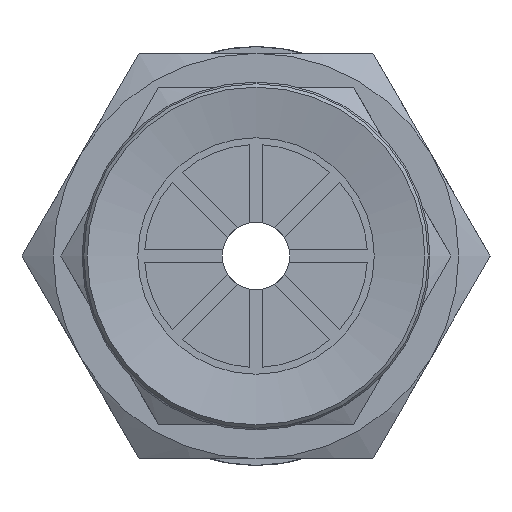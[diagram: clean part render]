
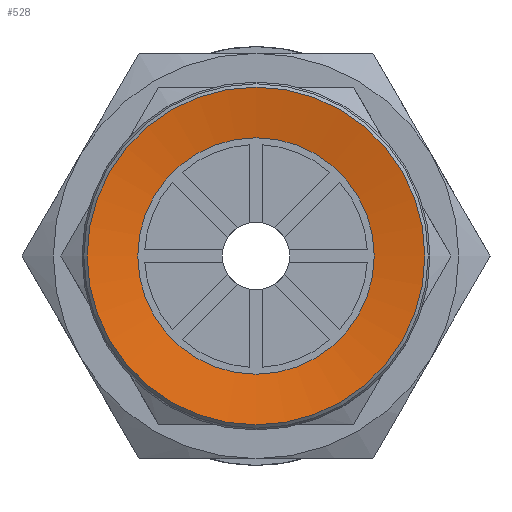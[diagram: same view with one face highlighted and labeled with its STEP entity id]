
A CAD part, front view. The second image highlights one B-rep face of the part: STEP entity #528.
In plain terms, the highlighted conical face has half-angle 80 degrees and reference radius 5 mm.
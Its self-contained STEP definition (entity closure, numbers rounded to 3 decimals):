
#528=ADVANCED_FACE('',(#810,#811),#812,.F.);
#810=FACE_BOUND('',#1235,.T.);
#811=FACE_OUTER_BOUND('',#1236,.T.);
#812=CONICAL_SURFACE('',#1237,5.0,1.396);
#1235=EDGE_LOOP('',(#2170));
#1236=EDGE_LOOP('',(#2171));
#1237=AXIS2_PLACEMENT_3D('',#2172,#2173,#2174);
#2170=ORIENTED_EDGE('',*,*,#2989,.T.);
#2171=ORIENTED_EDGE('',*,*,#2986,.F.);
#2172=CARTESIAN_POINT('',(0.0,0.,0.));
#2173=DIRECTION('',(0.0,0.,-1.0));
#2174=DIRECTION('',(0.0,1.0,0.));
#2986=EDGE_CURVE('',#3400,#3400,#3401,.T.);
#2989=EDGE_CURVE('',#3406,#3406,#3407,.T.);
#3400=VERTEX_POINT('',#4268);
#3401=CIRCLE('',#4269,5.0);
#3406=VERTEX_POINT('',#4274);
#3407=CIRCLE('',#4275,3.5);
#4268=CARTESIAN_POINT('',(0.0,-5.0,0.));
#4269=AXIS2_PLACEMENT_3D('',#5186,#5187,#5188);
#4274=CARTESIAN_POINT('',(0.0,-3.5,0.264));
#4275=AXIS2_PLACEMENT_3D('',#5195,#5196,#5197);
#5186=CARTESIAN_POINT('',(0.0,0.,0.));
#5187=DIRECTION('',(0.0,0.,1.0));
#5188=DIRECTION('',(0.0,-1.0,0.));
#5195=CARTESIAN_POINT('',(0.0,0.,0.264));
#5196=DIRECTION('',(0.0,0.,1.0));
#5197=DIRECTION('',(0.0,-1.0,0.));
